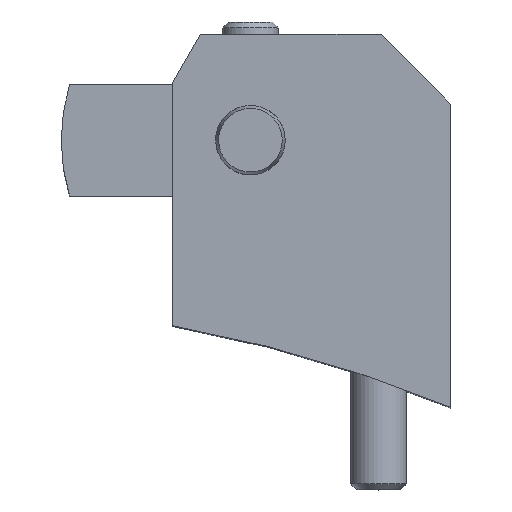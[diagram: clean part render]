
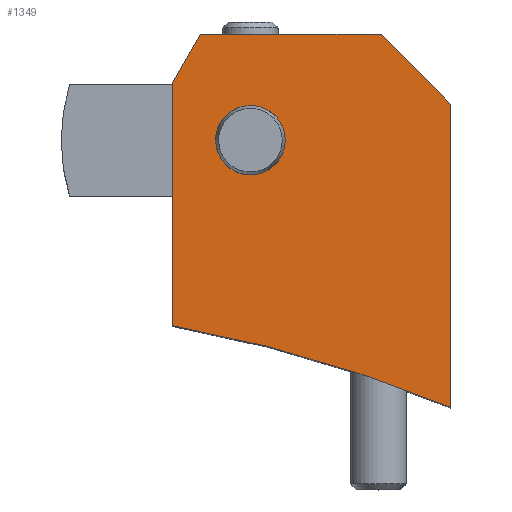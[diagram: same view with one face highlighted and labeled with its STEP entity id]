
A CAD part, top view. The second image highlights one B-rep face of the part: STEP entity #1349.
In plain terms, the highlighted planar face has unit normal (0, 0, 1).
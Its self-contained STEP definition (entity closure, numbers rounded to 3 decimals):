
#139=CIRCLE('',#1449,100.);
#146=CIRCLE('',#1466,2.5);
#191=PLANE('',#1472);
#258=FACE_BOUND('',#364,.T.);
#259=FACE_BOUND('',#365,.T.);
#364=EDGE_LOOP('',(#1077));
#365=EDGE_LOOP('',(#1078,#1079,#1080,#1081,#1082,#1083));
#445=LINE('',#2093,#542);
#461=LINE('',#2223,#558);
#467=LINE('',#2236,#564);
#469=LINE('',#2240,#566);
#470=LINE('',#2241,#567);
#542=VECTOR('',#1668,17.464);
#558=VECTOR('',#1732,21.796);
#564=VECTOR('',#1744,7.071);
#566=VECTOR('',#1748,4.);
#567=VECTOR('',#1749,13.);
#658=VERTEX_POINT('',#2087);
#660=VERTEX_POINT('',#2091);
#667=VERTEX_POINT('',#2176);
#678=VERTEX_POINT('',#2211);
#681=VERTEX_POINT('',#2220);
#686=VERTEX_POINT('',#2235);
#687=VERTEX_POINT('',#2239);
#794=EDGE_CURVE('',#660,#658,#445,.T.);
#804=EDGE_CURVE('',#667,#660,#139,.T.);
#817=EDGE_CURVE('',#678,#678,#146,.T.);
#822=EDGE_CURVE('',#681,#667,#461,.T.);
#829=EDGE_CURVE('',#686,#681,#467,.T.);
#831=EDGE_CURVE('',#658,#687,#469,.T.);
#832=EDGE_CURVE('',#687,#686,#470,.T.);
#1077=ORIENTED_EDGE('',*,*,#817,.T.);
#1078=ORIENTED_EDGE('',*,*,#831,.F.);
#1079=ORIENTED_EDGE('',*,*,#794,.F.);
#1080=ORIENTED_EDGE('',*,*,#804,.F.);
#1081=ORIENTED_EDGE('',*,*,#822,.F.);
#1082=ORIENTED_EDGE('',*,*,#829,.F.);
#1083=ORIENTED_EDGE('',*,*,#832,.F.);
#1349=ADVANCED_FACE('',(#258,#259),#191,.F.);
#1449=AXIS2_PLACEMENT_3D('',#2178,#1682,#1683);
#1466=AXIS2_PLACEMENT_3D('',#2212,#1722,#1723);
#1472=AXIS2_PLACEMENT_3D('',#2238,#1746,#1747);
#1668=DIRECTION('',(0.,1.,0.));
#1682=DIRECTION('center_axis',(0.,0.,
1.));
#1683=DIRECTION('ref_axis',(1.,0.,0.));
#1722=DIRECTION('center_axis',(0.,0.,
-1.));
#1723=DIRECTION('ref_axis',(-1.,0.,0.));
#1732=DIRECTION('',(0.,-1.,0.));
#1744=DIRECTION('',(0.707,-0.707,0.));
#1746=DIRECTION('center_axis',(0.,0.,
-1.));
#1747=DIRECTION('ref_axis',(-1.,0.,0.));
#1748=DIRECTION('',(0.5,0.866,0.));
#1749=DIRECTION('',(1.,0.,0.));
#2087=CARTESIAN_POINT('',(18.2,115.796,15.5));
#2091=CARTESIAN_POINT('',(18.2,98.332,15.5));
#2093=CARTESIAN_POINT('',(18.2,98.332,15.5));
#2176=CARTESIAN_POINT('',(38.2,92.464,15.5));
#2178=CARTESIAN_POINT('Origin',(0.2,-0.035,15.5));
#2211=CARTESIAN_POINT('',(26.3,111.66,15.5));
#2212=CARTESIAN_POINT('Origin',(23.8,111.66,15.5));
#2220=CARTESIAN_POINT('',(38.2,114.26,15.5));
#2223=CARTESIAN_POINT('',(38.2,119.26,15.5));
#2235=CARTESIAN_POINT('',(33.2,119.26,15.5));
#2236=CARTESIAN_POINT('',(36.389,116.071,15.5));
#2238=CARTESIAN_POINT('Origin',(28.884,107.187,15.5));
#2239=CARTESIAN_POINT('',(20.2,119.26,15.5));
#2240=CARTESIAN_POINT('',(18.172,115.747,15.5));
#2241=CARTESIAN_POINT('',(18.2,119.26,15.5));
